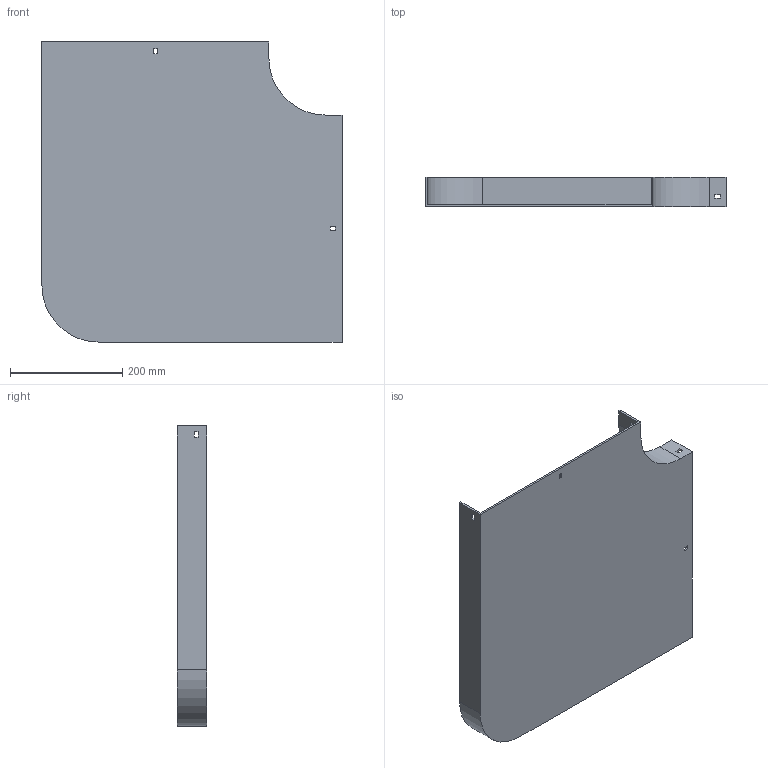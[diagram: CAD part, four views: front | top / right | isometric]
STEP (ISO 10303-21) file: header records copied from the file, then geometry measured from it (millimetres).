
FILE_DESCRIPTION (( 'STEP AP214' ), '1' );
FILE_NAME ('10F1B400.step', '2025-02-21T12:57:10', ( '' ), ( '' ), 'SwSTEP 2.0', 'SolidWorks 2023', '' );
FILE_SCHEMA (( 'AUTOMOTIVE_DESIGN' ));
Length unit declared in the file: millimetre
Products named in the file (1): 10F1B400
Bounding box: 534 x 52 x 534 mm (x, y, z)
Volume: 1148363 mm3; surface area: 664755 mm2
Topology: 1 solids, 1 shells, 42 faces, 120 edges, 80 vertices
Faces by surface type: plane 38, cylinder 4
Entity records: 1399 total; most frequent: CARTESIAN_POINT 243, ORIENTED_EDGE 240, DIRECTION 214, EDGE_CURVE 120, LINE 112, VECTOR 112, VERTEX_POINT 80, EDGE_LOOP 54
